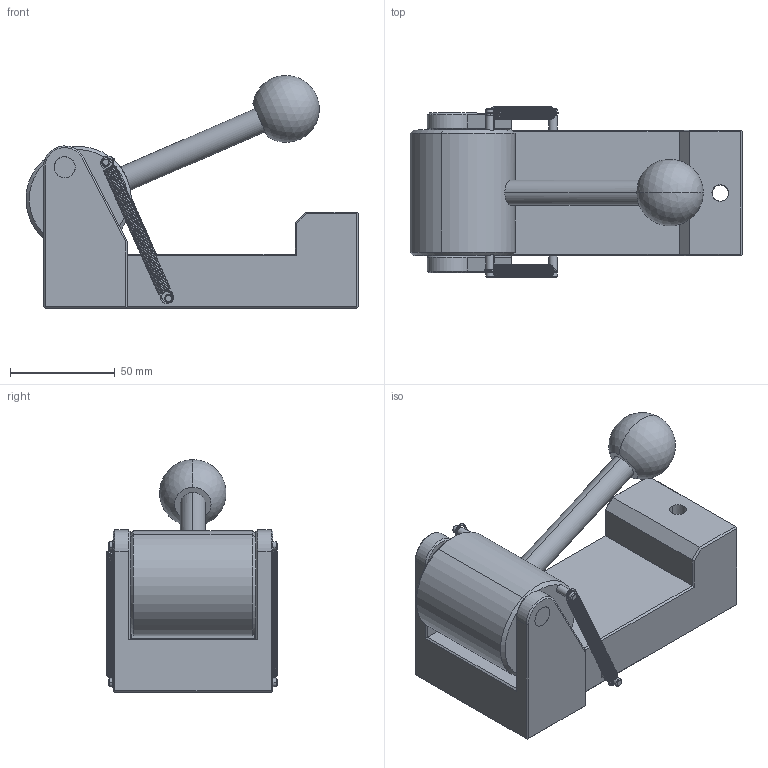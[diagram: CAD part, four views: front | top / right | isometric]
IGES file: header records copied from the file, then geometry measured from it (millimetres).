
Global section: file name: No Iges File Name specified; native system: Autodesk Inventor 2010; preprocessor: AutoDesk Inventor Iges Exporter R2010; author: mlampen; date: 20170601.114247; units: inch
Bounding box: 158.23 x 81.53 x 111 mm (x, y, z)
Volume: 446667.2 mm3; surface area: 73547.4 mm2
Topology: 5 solids, 5 shells, 154 faces, 360 edges, 225 vertices
Faces by surface type: plane 72, cylinder 32, cone 16, bspline 12, revolution 12, torus 8, sphere 2
